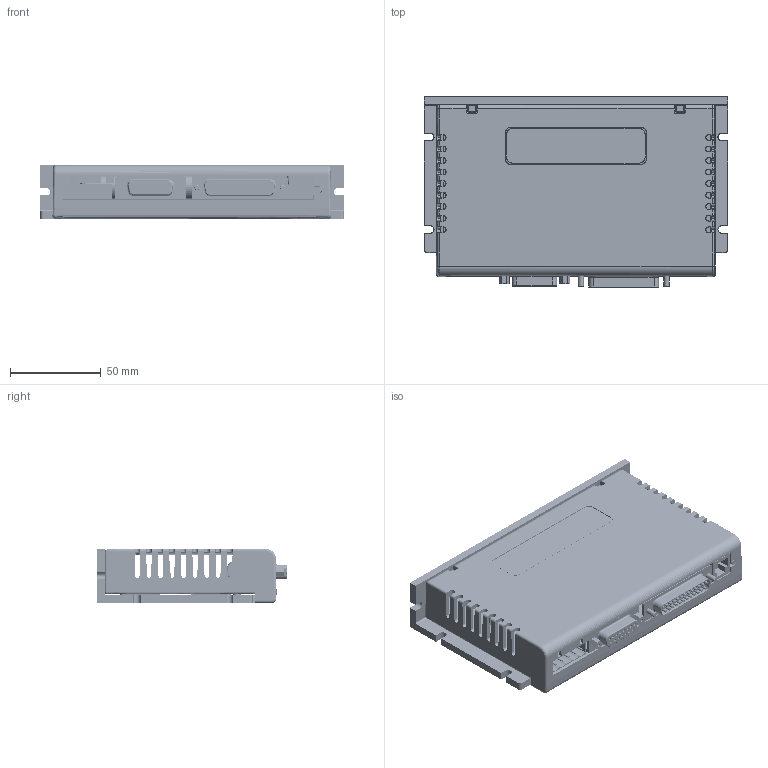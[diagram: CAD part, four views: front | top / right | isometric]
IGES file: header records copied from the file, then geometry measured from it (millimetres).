
Start section: SolidWorks IGES file using analytic representation for surfaces
Global section: file name: K:\ALL Users\Chris Roy\Projects\CMS\Customer Files\Accelus Panel\ACCELUS PANEL.IGS; native system: SolidWorks 2005 by SolidWorks Corporation; preprocessor: SolidWorks 2005 by SolidWorks Corporation; author: croy; date: 050228.122112; units: inch
Bounding box: 167 x 104.95 x 29.72 mm (x, y, z)
Surface area: 154033.2 mm2 (no closed solid volume)
Topology: 0 solids, 0 shells, 2241 faces, 48222 edges, 59620 vertices
Faces by surface type: bspline 1265, revolution 976
